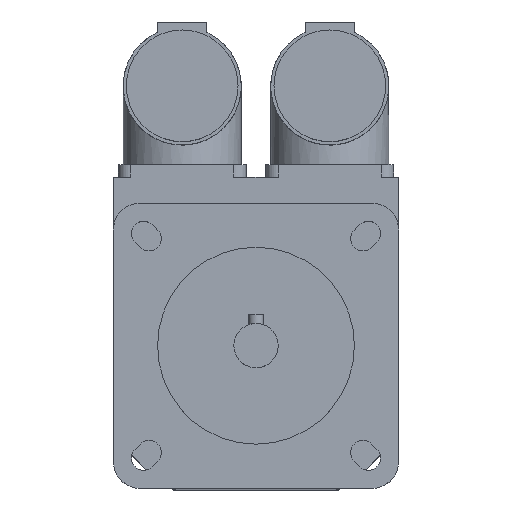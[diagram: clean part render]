
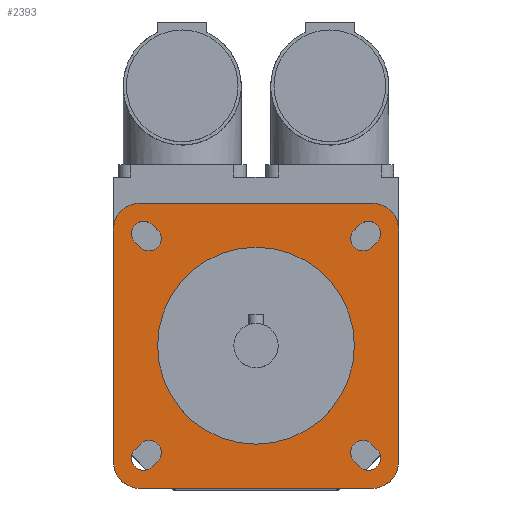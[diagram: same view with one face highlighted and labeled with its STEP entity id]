
A CAD part, top view. The second image highlights one B-rep face of the part: STEP entity #2393.
In plain terms, the highlighted planar face has unit normal (0, 0, 1).
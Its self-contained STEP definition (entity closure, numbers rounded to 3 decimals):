
#32=FACE_BOUND('',#432,.T.);
#33=FACE_BOUND('',#433,.T.);
#34=FACE_BOUND('',#434,.T.);
#35=FACE_BOUND('',#435,.T.);
#36=FACE_BOUND('',#436,.T.);
#51=CIRCLE('',#2486,20.);
#88=CIRCLE('',#2550,2.5);
#92=CIRCLE('',#2557,2.5);
#93=CIRCLE('',#2560,2.5);
#94=CIRCLE('',#2563,2.5);
#104=CIRCLE('',#2578,2.5);
#105=CIRCLE('',#2581,2.5);
#106=CIRCLE('',#2584,2.5);
#107=CIRCLE('',#2587,2.5);
#108=CIRCLE('',#2589,5.5);
#109=CIRCLE('',#2591,5.5);
#110=CIRCLE('',#2593,5.5);
#111=CIRCLE('',#2595,5.5);
#290=FACE_OUTER_BOUND('',#431,.T.);
#431=EDGE_LOOP('',(#1839,#1840,#1841,#1842,#1843,#1844,#1845,#1846));
#432=EDGE_LOOP('',(#1847));
#433=EDGE_LOOP('',(#1848,#1849,#1850,#1851));
#434=EDGE_LOOP('',(#1852,#1853,#1854,#1855));
#435=EDGE_LOOP('',(#1856,#1857,#1858,#1859));
#436=EDGE_LOOP('',(#1860,#1861,#1862,#1863));
#578=LINE('',#3719,#799);
#586=LINE('',#3743,#807);
#590=LINE('',#3753,#811);
#594=LINE('',#3763,#815);
#610=LINE('',#3814,#831);
#612=LINE('',#3820,#833);
#614=LINE('',#3826,#835);
#616=LINE('',#3832,#837);
#625=LINE('',#3860,#846);
#626=LINE('',#3861,#847);
#627=LINE('',#3862,#848);
#628=LINE('',#3863,#849);
#799=VECTOR('',#2944,1.5);
#807=VECTOR('',#2966,1.5);
#811=VECTOR('',#2976,1.5);
#815=VECTOR('',#2986,1.5);
#831=VECTOR('',#3032,1.5);
#833=VECTOR('',#3040,1.5);
#835=VECTOR('',#3048,1.5);
#837=VECTOR('',#3056,1.5);
#846=VECTOR('',#3087,47.);
#847=VECTOR('',#3088,47.);
#848=VECTOR('',#3089,47.);
#849=VECTOR('',#3090,47.);
#974=VERTEX_POINT('',#3540);
#1039=VERTEX_POINT('',#3716);
#1040=VERTEX_POINT('',#3718);
#1041=VERTEX_POINT('',#3722);
#1048=VERTEX_POINT('',#3740);
#1049=VERTEX_POINT('',#3742);
#1050=VERTEX_POINT('',#3746);
#1051=VERTEX_POINT('',#3750);
#1052=VERTEX_POINT('',#3752);
#1053=VERTEX_POINT('',#3756);
#1054=VERTEX_POINT('',#3760);
#1055=VERTEX_POINT('',#3762);
#1056=VERTEX_POINT('',#3766);
#1075=VERTEX_POINT('',#3812);
#1076=VERTEX_POINT('',#3818);
#1077=VERTEX_POINT('',#3824);
#1078=VERTEX_POINT('',#3830);
#1079=VERTEX_POINT('',#3836);
#1080=VERTEX_POINT('',#3838);
#1081=VERTEX_POINT('',#3842);
#1082=VERTEX_POINT('',#3844);
#1083=VERTEX_POINT('',#3848);
#1084=VERTEX_POINT('',#3850);
#1085=VERTEX_POINT('',#3854);
#1086=VERTEX_POINT('',#3856);
#1215=EDGE_CURVE('',#974,#974,#51,.T.);
#1301=EDGE_CURVE('',#1040,#1039,#578,.T.);
#1304=EDGE_CURVE('',#1039,#1041,#88,.T.);
#1313=EDGE_CURVE('',#1049,#1048,#586,.T.);
#1316=EDGE_CURVE('',#1048,#1050,#92,.T.);
#1318=EDGE_CURVE('',#1052,#1051,#590,.T.);
#1321=EDGE_CURVE('',#1051,#1053,#93,.T.);
#1323=EDGE_CURVE('',#1055,#1054,#594,.T.);
#1326=EDGE_CURVE('',#1054,#1056,#94,.T.);
#1349=EDGE_CURVE('',#1053,#1075,#610,.T.);
#1350=EDGE_CURVE('',#1075,#1052,#104,.T.);
#1352=EDGE_CURVE('',#1050,#1076,#612,.T.);
#1353=EDGE_CURVE('',#1076,#1049,#105,.T.);
#1355=EDGE_CURVE('',#1056,#1077,#614,.T.);
#1356=EDGE_CURVE('',#1077,#1055,#106,.T.);
#1358=EDGE_CURVE('',#1041,#1078,#616,.T.);
#1359=EDGE_CURVE('',#1078,#1040,#107,.T.);
#1361=EDGE_CURVE('',#1080,#1079,#108,.T.);
#1364=EDGE_CURVE('',#1082,#1081,#109,.T.);
#1367=EDGE_CURVE('',#1084,#1083,#110,.T.);
#1370=EDGE_CURVE('',#1086,#1085,#111,.T.);
#1372=EDGE_CURVE('',#1079,#1086,#625,.T.);
#1373=EDGE_CURVE('',#1085,#1084,#626,.T.);
#1374=EDGE_CURVE('',#1083,#1082,#627,.T.);
#1375=EDGE_CURVE('',#1081,#1080,#628,.T.);
#1839=ORIENTED_EDGE('',*,*,#1372,.T.);
#1840=ORIENTED_EDGE('',*,*,#1370,.T.);
#1841=ORIENTED_EDGE('',*,*,#1373,.T.);
#1842=ORIENTED_EDGE('',*,*,#1367,.T.);
#1843=ORIENTED_EDGE('',*,*,#1374,.T.);
#1844=ORIENTED_EDGE('',*,*,#1364,.T.);
#1845=ORIENTED_EDGE('',*,*,#1375,.T.);
#1846=ORIENTED_EDGE('',*,*,#1361,.T.);
#1847=ORIENTED_EDGE('',*,*,#1215,.T.);
#1848=ORIENTED_EDGE('',*,*,#1349,.T.);
#1849=ORIENTED_EDGE('',*,*,#1350,.T.);
#1850=ORIENTED_EDGE('',*,*,#1318,.T.);
#1851=ORIENTED_EDGE('',*,*,#1321,.T.);
#1852=ORIENTED_EDGE('',*,*,#1352,.T.);
#1853=ORIENTED_EDGE('',*,*,#1353,.T.);
#1854=ORIENTED_EDGE('',*,*,#1313,.T.);
#1855=ORIENTED_EDGE('',*,*,#1316,.T.);
#1856=ORIENTED_EDGE('',*,*,#1355,.T.);
#1857=ORIENTED_EDGE('',*,*,#1356,.T.);
#1858=ORIENTED_EDGE('',*,*,#1323,.T.);
#1859=ORIENTED_EDGE('',*,*,#1326,.T.);
#1860=ORIENTED_EDGE('',*,*,#1358,.T.);
#1861=ORIENTED_EDGE('',*,*,#1359,.T.);
#1862=ORIENTED_EDGE('',*,*,#1301,.T.);
#1863=ORIENTED_EDGE('',*,*,#1304,.T.);
#2297=PLANE('',#2596);
#2393=ADVANCED_FACE('',(#290,#32,#33,#34,#35,#36),#2297,.T.);
#2486=AXIS2_PLACEMENT_3D('',#3541,#2769,#2770);
#2550=AXIS2_PLACEMENT_3D('',#3724,#2949,#2950);
#2557=AXIS2_PLACEMENT_3D('',#3748,#2971,#2972);
#2560=AXIS2_PLACEMENT_3D('',#3758,#2981,#2982);
#2563=AXIS2_PLACEMENT_3D('',#3768,#2991,#2992);
#2578=AXIS2_PLACEMENT_3D('',#3816,#3035,#3036);
#2581=AXIS2_PLACEMENT_3D('',#3822,#3043,#3044);
#2584=AXIS2_PLACEMENT_3D('',#3828,#3051,#3052);
#2587=AXIS2_PLACEMENT_3D('',#3834,#3059,#3060);
#2589=AXIS2_PLACEMENT_3D('',#3839,#3064,#3065);
#2591=AXIS2_PLACEMENT_3D('',#3845,#3070,#3071);
#2593=AXIS2_PLACEMENT_3D('',#3851,#3076,#3077);
#2595=AXIS2_PLACEMENT_3D('',#3857,#3082,#3083);
#2596=AXIS2_PLACEMENT_3D('',#3859,#3085,#3086);
#2769=DIRECTION('center_axis',(0.,0.,-1.));
#2770=DIRECTION('ref_axis',(-1.,0.,0.));
#2944=DIRECTION('',(-0.707,-0.707,0.));
#2949=DIRECTION('center_axis',(0.,0.,-1.));
#2950=DIRECTION('ref_axis',(0.707,-0.707,0.));
#2966=DIRECTION('',(-0.707,0.707,0.));
#2971=DIRECTION('center_axis',(0.,0.,-1.));
#2972=DIRECTION('ref_axis',(-0.707,-0.707,0.));
#2976=DIRECTION('',(-0.707,-0.707,0.));
#2981=DIRECTION('center_axis',(0.,0.,-1.));
#2982=DIRECTION('ref_axis',(0.707,-0.707,0.));
#2986=DIRECTION('',(-0.707,0.707,0.));
#2991=DIRECTION('center_axis',(0.,0.,-1.));
#2992=DIRECTION('ref_axis',(-0.707,-0.707,0.));
#3032=DIRECTION('',(0.707,0.707,0.));
#3035=DIRECTION('center_axis',(0.,0.,-1.));
#3036=DIRECTION('ref_axis',(-0.707,0.707,0.));
#3040=DIRECTION('',(0.707,-0.707,0.));
#3043=DIRECTION('center_axis',(0.,0.,-1.));
#3044=DIRECTION('ref_axis',(0.707,0.707,0.));
#3048=DIRECTION('',(0.707,-0.707,0.));
#3051=DIRECTION('center_axis',(0.,0.,-1.));
#3052=DIRECTION('ref_axis',(0.707,0.707,0.));
#3056=DIRECTION('',(0.707,0.707,0.));
#3059=DIRECTION('center_axis',(0.,0.,-1.));
#3060=DIRECTION('ref_axis',(-0.707,0.707,0.));
#3064=DIRECTION('center_axis',(0.,0.,1.));
#3065=DIRECTION('ref_axis',(1.,0.,0.));
#3070=DIRECTION('center_axis',(0.,0.,1.));
#3071=DIRECTION('ref_axis',(0.,-1.,0.));
#3076=DIRECTION('center_axis',(0.,0.,1.));
#3077=DIRECTION('ref_axis',(-1.,0.,0.));
#3082=DIRECTION('center_axis',(0.,0.,1.));
#3083=DIRECTION('ref_axis',(0.,1.,0.));
#3085=DIRECTION('center_axis',(0.,0.,1.));
#3086=DIRECTION('ref_axis',(1.,0.,0.));
#3087=DIRECTION('',(-1.,0.,0.));
#3088=DIRECTION('',(0.,-1.,0.));
#3089=DIRECTION('',(1.,0.,0.));
#3090=DIRECTION('',(0.,1.,0.));
#3540=CARTESIAN_POINT('',(20.,0.,146.5));
#3541=CARTESIAN_POINT('Origin',(0.,0.,146.5));
#3716=CARTESIAN_POINT('',(-21.036,-24.572,146.5));
#3718=CARTESIAN_POINT('',(-19.976,-23.511,146.5));
#3719=CARTESIAN_POINT('',(-9.634,-13.17,146.5));
#3722=CARTESIAN_POINT('',(-24.572,-21.036,146.5));
#3724=CARTESIAN_POINT('Origin',(-22.804,-22.804,146.5));
#3740=CARTESIAN_POINT('',(-24.572,21.036,146.5));
#3742=CARTESIAN_POINT('',(-23.511,19.976,146.5));
#3743=CARTESIAN_POINT('',(-13.17,9.634,146.5));
#3746=CARTESIAN_POINT('',(-21.036,24.572,146.5));
#3748=CARTESIAN_POINT('Origin',(-22.804,22.804,146.5));
#3750=CARTESIAN_POINT('',(23.511,19.976,146.5));
#3752=CARTESIAN_POINT('',(24.572,21.036,146.5));
#3753=CARTESIAN_POINT('',(12.64,9.104,146.5));
#3756=CARTESIAN_POINT('',(19.976,23.511,146.5));
#3758=CARTESIAN_POINT('Origin',(21.744,21.744,146.5));
#3760=CARTESIAN_POINT('',(19.976,-23.511,146.5));
#3762=CARTESIAN_POINT('',(21.036,-24.572,146.5));
#3763=CARTESIAN_POINT('',(9.104,-12.64,146.5));
#3766=CARTESIAN_POINT('',(23.511,-19.976,146.5));
#3768=CARTESIAN_POINT('Origin',(21.744,-21.744,146.5));
#3812=CARTESIAN_POINT('',(21.036,24.572,146.5));
#3814=CARTESIAN_POINT('',(9.634,13.17,146.5));
#3816=CARTESIAN_POINT('Origin',(22.804,22.804,146.5));
#3818=CARTESIAN_POINT('',(-19.976,23.511,146.5));
#3820=CARTESIAN_POINT('',(-9.104,12.64,146.5));
#3822=CARTESIAN_POINT('Origin',(-21.744,21.744,146.5));
#3824=CARTESIAN_POINT('',(24.572,-21.036,146.5));
#3826=CARTESIAN_POINT('',(13.17,-9.634,146.5));
#3828=CARTESIAN_POINT('Origin',(22.804,-22.804,146.5));
#3830=CARTESIAN_POINT('',(-23.511,-19.976,146.5));
#3832=CARTESIAN_POINT('',(-12.64,-9.104,146.5));
#3834=CARTESIAN_POINT('Origin',(-21.744,-21.744,146.5));
#3836=CARTESIAN_POINT('',(23.5,29.,146.5));
#3838=CARTESIAN_POINT('',(29.,23.5,146.5));
#3839=CARTESIAN_POINT('Origin',(23.5,23.5,146.5));
#3842=CARTESIAN_POINT('',(29.,-23.5,146.5));
#3844=CARTESIAN_POINT('',(23.5,-29.,146.5));
#3845=CARTESIAN_POINT('Origin',(23.5,-23.5,146.5));
#3848=CARTESIAN_POINT('',(-23.5,-29.,146.5));
#3850=CARTESIAN_POINT('',(-29.,-23.5,146.5));
#3851=CARTESIAN_POINT('Origin',(-23.5,-23.5,146.5));
#3854=CARTESIAN_POINT('',(-29.,23.5,146.5));
#3856=CARTESIAN_POINT('',(-23.5,29.,146.5));
#3857=CARTESIAN_POINT('Origin',(-23.5,23.5,146.5));
#3859=CARTESIAN_POINT('Origin',(0.,0.,
146.5));
#3860=CARTESIAN_POINT('',(23.5,29.,146.5));
#3861=CARTESIAN_POINT('',(-29.,23.5,146.5));
#3862=CARTESIAN_POINT('',(-23.5,-29.,146.5));
#3863=CARTESIAN_POINT('',(29.,-23.5,146.5));
